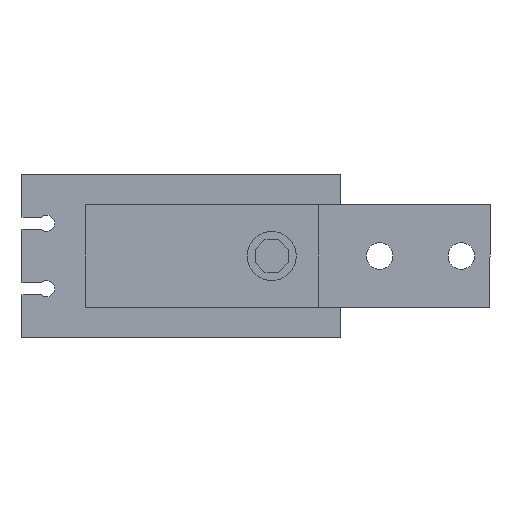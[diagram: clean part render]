
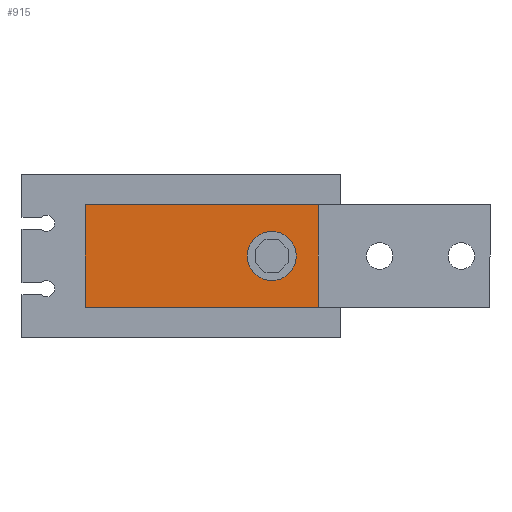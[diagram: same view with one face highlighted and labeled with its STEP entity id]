
A CAD part, front view. The second image highlights one B-rep face of the part: STEP entity #915.
In plain terms, the highlighted planar face has unit normal (0, -1, 0) as drawn and (1, 0, 0) by its records, which use the part's own axes.
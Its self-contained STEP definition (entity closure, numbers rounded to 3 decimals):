
#850 = ORIENTED_EDGE ( 'NONE', *, *, #926, .F. ) ;
#852 = VERTEX_POINT ( 'NONE', #7946 ) ;
#910 = VERTEX_POINT ( 'NONE', #8069 ) ;
#913 = EDGE_CURVE ( 'NONE', #1072, #852, #8134, .T. ) ;
#915 = ADVANCED_FACE ( 'NONE', ( #8117, #8119 ), #8118, .F. ) ;
#916 = ORIENTED_EDGE ( 'NONE', *, *, #913, .T. ) ;
#917 = ORIENTED_EDGE ( 'NONE', *, *, #1037, .F. ) ;
#920 = EDGE_CURVE ( 'NONE', #910, #1072, #8104, .T. ) ;
#921 = EDGE_CURVE ( 'NONE', #983, #998, #8116, .T. ) ;
#922 = EDGE_LOOP ( 'NONE', ( #923, #917 ) ) ;
#923 = ORIENTED_EDGE ( 'NONE', *, *, #921, .F. ) ;
#924 = EDGE_LOOP ( 'NONE', ( #916, #850, #927, #928 ) ) ;
#925 = VERTEX_POINT ( 'NONE', #8162 ) ;
#926 = EDGE_CURVE ( 'NONE', #925, #852, #8156, .T. ) ;
#927 = ORIENTED_EDGE ( 'NONE', *, *, #929, .F. ) ;
#928 = ORIENTED_EDGE ( 'NONE', *, *, #920, .T. ) ;
#929 = EDGE_CURVE ( 'NONE', #910, #925, #8159, .T. ) ;
#983 = VERTEX_POINT ( 'NONE', #8215 ) ;
#998 = VERTEX_POINT ( 'NONE', #8223 ) ;
#1037 = EDGE_CURVE ( 'NONE', #998, #983, #8319, .T. ) ;
#1072 = VERTEX_POINT ( 'NONE', #8332 ) ;
#7946 = CARTESIAN_POINT ( 'NONE',  ( 30.849, 12.305, 0. ) ) ;
#8043 = DIRECTION ( 'NONE',  ( -1., 0., 0. ) ) ;
#8069 = CARTESIAN_POINT ( 'NONE',  ( 30.849, -44.695, 25. ) ) ;
#8101 = DIRECTION ( 'NONE',  ( 0., 0., -1. ) ) ;
#8102 = VECTOR ( 'NONE', #8101, 1000. ) ;
#8103 = CARTESIAN_POINT ( 'NONE',  ( 30.849, -44.695, 25. ) ) ;
#8104 = LINE ( 'NONE', #8103, #8102 ) ;
#8108 = DIRECTION ( 'NONE',  ( 0., 0., 1. ) ) ;
#8109 = CARTESIAN_POINT ( 'NONE',  ( 30.849, 12.305, 25. ) ) ;
#8110 = DIRECTION ( 'NONE',  ( 0., 0., -1. ) ) ;
#8111 = CARTESIAN_POINT ( 'NONE',  ( 30.849, 12.305, 25. ) ) ;
#8116 = CIRCLE ( 'NONE', #8121, 6. ) ;
#8117 = FACE_BOUND ( 'NONE', #922, .T. ) ;
#8118 = PLANE ( 'NONE',  #8122 ) ;
#8119 = FACE_OUTER_BOUND ( 'NONE', #924, .T. ) ;
#8121 = AXIS2_PLACEMENT_3D ( 'NONE', #8127, #8158, #8157 ) ;
#8122 = AXIS2_PLACEMENT_3D ( 'NONE', #8109, #8043, #8108 ) ;
#8127 = CARTESIAN_POINT ( 'NONE',  ( 30.849, 0.93, 12.5 ) ) ;
#8131 = DIRECTION ( 'NONE',  ( 0., 1., 0. ) ) ;
#8132 = VECTOR ( 'NONE', #8131, 1000. ) ;
#8133 = CARTESIAN_POINT ( 'NONE',  ( 30.849, 12.305, 0. ) ) ;
#8134 = LINE ( 'NONE', #8133, #8132 ) ;
#8151 = VECTOR ( 'NONE', #8154, 1000. ) ;
#8152 = VECTOR ( 'NONE', #8110, 1000. ) ;
#8154 = DIRECTION ( 'NONE',  ( 0., 1., 0. ) ) ;
#8155 = CARTESIAN_POINT ( 'NONE',  ( 30.849, 12.305, 25. ) ) ;
#8156 = LINE ( 'NONE', #8111, #8152 ) ;
#8157 = DIRECTION ( 'NONE',  ( 0., 0., -1. ) ) ;
#8158 = DIRECTION ( 'NONE',  ( 1., 0., 0. ) ) ;
#8159 = LINE ( 'NONE', #8155, #8151 ) ;
#8162 = CARTESIAN_POINT ( 'NONE',  ( 30.849, 12.305, 25. ) ) ;
#8215 = CARTESIAN_POINT ( 'NONE',  ( 30.849, 0.93, 6.5 ) ) ;
#8223 = CARTESIAN_POINT ( 'NONE',  ( 30.849, 0.93, 18.5 ) ) ;
#8282 = DIRECTION ( 'NONE',  ( 1., 0., 0. ) ) ;
#8317 = DIRECTION ( 'NONE',  ( 0., 0., -1. ) ) ;
#8318 = AXIS2_PLACEMENT_3D ( 'NONE', #8325, #8282, #8317 ) ;
#8319 = CIRCLE ( 'NONE', #8318, 6. ) ;
#8325 = CARTESIAN_POINT ( 'NONE',  ( 30.849, 0.93, 12.5 ) ) ;
#8332 = CARTESIAN_POINT ( 'NONE',  ( 30.849, -44.695, 0. ) ) ;
